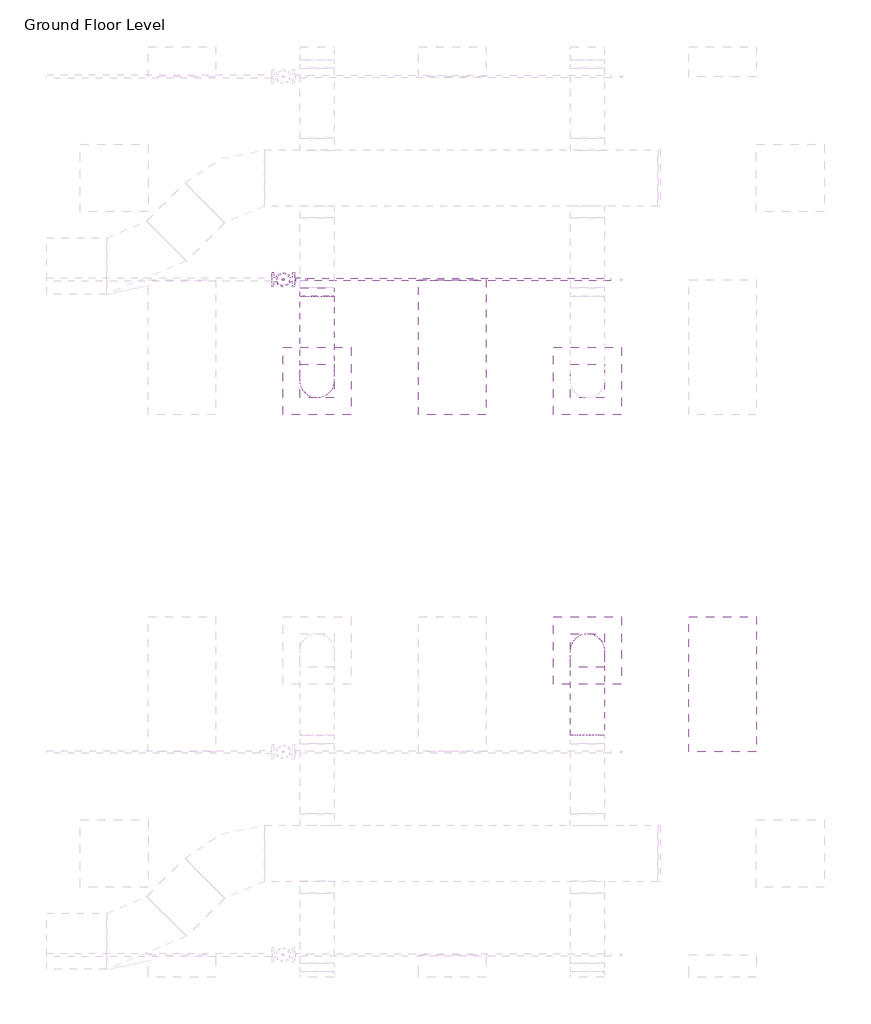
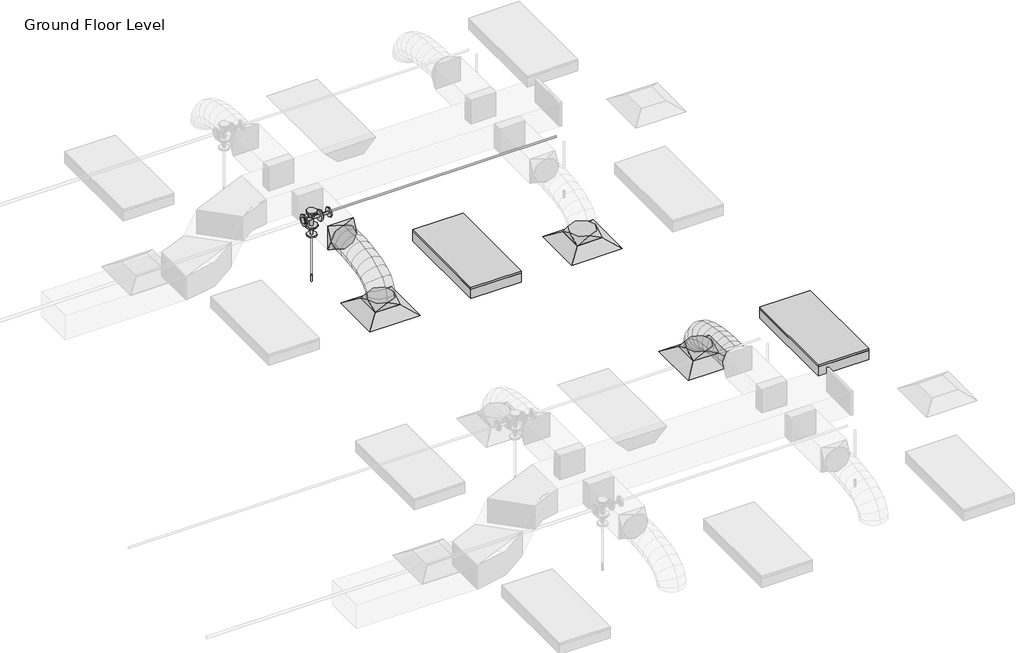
# One storey, part 38 of 74: 4 duct fittings, 3 air terminals, 3 pipe fittings, 2 duct segments, 2 light fixtures, 2 pipe segments, 1 fire suppression terminal.
"""IFC4 building model written with IfcOpenShell, lengths in millimetres."""

from ifc_helpers import new_model, si_unit, point, frame, frame_2d, origin, place, context, project, spatial, circle_curve, ellipse_curve, trimmed, segment, composite_curve, outline, extrude, transform, mapped, element, save
from ifc_brep_helpers import plane_surface, cylinder_surface, advanced_brep
from components import m_return_diffuser_600_x_600_face_300_x_300_connection_ff221211, m_rectangular_to_round_transition_angle_45_degree_641efff0, m_sprinkler_dry_pendent_hosted_15_mm_dry_pendent_9bda8e11, m_troffer_light_parabolic_rectangular1_0600x1200mm_4_lamp_86473d4a, m_reducer_flanged_cs_class_150_standard_ccf252ad, m_tee_round_base_flanged_cs_class_150_standard_7e5987a1

model = new_model("IFC4")

# Units and contexts
model_context = context("Model", 3, world=origin())
ifc_project = project(units=[si_unit("LENGTHUNIT", "METRE", prefix="MILLI")], contexts=[model_context])

# Site, building, storey
site = spatial("IfcSite", under=ifc_project)
building = spatial("IfcBuilding", under=site)
storey = spatial("IfcBuildingStorey", under=building, Name="Ground Floor Level", Elevation=900.0)

# Air terminals
placement = place(None, origin())
m_return_diffuser_600_x_600_face_300_x_300_connection_shape = m_return_diffuser_600_x_600_face_300_x_300_connection_ff221211(model_context)
element("IfcAirTerminal", 1, ObjectType="M_Supply Diffuser : 600 x 600 Face 300 x 300 Connection", at=placement, inside=storey, context=model_context, shape_type="MappedRepresentation", body=[
    mapped(m_return_diffuser_600_x_600_face_300_x_300_connection_shape, transform((10742.7672395, -1074.7846466, 3650.0), x_axis=(1.0, 0.0, 0.0), y_axis=(0.0, 1.0, 0.0), z_axis=(0.0, 0.0, 1.0))),
])
element("IfcAirTerminal", 2, ObjectType="M_Supply Diffuser : 600 x 600 Face 300 x 300 Connection", at=placement, inside=storey, context=model_context, shape_type="MappedRepresentation", body=[
    mapped(m_return_diffuser_600_x_600_face_300_x_300_connection_shape, transform((13142.7672395, -1074.7846466, 3650.0), x_axis=(1.0, 0.0, 0.0), y_axis=(0.0, 1.0, 0.0), z_axis=(0.0, 0.0, 1.0))),
])
element("IfcAirTerminal", 3, ObjectType="M_Supply Diffuser : 600 x 600 Face 300 x 300 Connection", at=placement, inside=storey, context=model_context, shape_type="MappedRepresentation", body=[
    mapped(m_return_diffuser_600_x_600_face_300_x_300_connection_shape, transform((13142.7672395, -3464.7846466, 3650.0), x_axis=(1.0, 0.0, 0.0), y_axis=(0.0, 1.0, 0.0), z_axis=(0.0, 0.0, 1.0))),
])

# Duct fittings
m_rectangular_to_round_transition_angle_45_degree_shape = m_rectangular_to_round_transition_angle_45_degree_641efff0(model_context)
element("IfcDuctFitting", 4, ObjectType="M_Rectangular to Round Transition - Angle : 45 Degree", at=placement, inside=storey, context=model_context, shape_type="MappedRepresentation", body=[
    mapped(m_rectangular_to_round_transition_angle_45_degree_shape, transform((13142.7672395, -3464.7846466, 3751.6), x_axis=(0.0, 0.0, 1.0), y_axis=(-1.0, 0.0, 0.0), z_axis=(0.0, -1.0, 0.0))),
])
element("IfcDuctFitting", 5, ObjectType="M_Rectangular to Round Transition - Angle : 45 Degree", at=placement, inside=storey, context=model_context, shape_type="MappedRepresentation", body=[
    mapped(m_rectangular_to_round_transition_angle_45_degree_shape, transform((10742.7672395, -1074.7846466, 3751.6), x_axis=(0.0, 0.0, 1.0), y_axis=(-1.0, 0.0, 0.0), z_axis=(0.0, -1.0, 0.0))),
])
element("IfcDuctFitting", 6, ObjectType="M_Rectangular to Round Transition - Angle : 45 Degree", at=placement, inside=storey, context=model_context, shape_type="MappedRepresentation", body=[
    mapped(m_rectangular_to_round_transition_angle_45_degree_shape, transform((10742.7672395, -247.4487153, 4100.0), x_axis=(0.0, -1.0, 0.0), y_axis=(1.0, 0.0, 0.0), z_axis=(0.0, 0.0, 1.0))),
])
element("IfcDuctFitting", 7, ObjectType="M_Rectangular to Round Transition - Angle : 45 Degree", at=placement, inside=storey, context=model_context, shape_type="MappedRepresentation", body=[
    mapped(m_rectangular_to_round_transition_angle_45_degree_shape, transform((13142.7672395, -1074.7846466, 3751.6), x_axis=(0.0, 0.0, 1.0), y_axis=(-1.0, 0.0, 0.0), z_axis=(0.0, -1.0, 0.0))),
])

# Duct segments
element("IfcDuctSegment", 8, ObjectType="Flex - Round", at=placement, inside=storey, context=model_context, shape_type="AdvancedBrep", body=[
    advanced_brep(
    [(13292.7672395, -3464.7846466, 3826.6), (13142.7672395, -3614.7846466, 3826.6), (12992.7672395, -3464.7846466, 3826.6), (13142.7672395, -3314.7846466, 3826.6), (13292.7672395, -3464.7846466, 3857.9377114), (13142.7672395, -3614.7846466, 3832.2944892), (12992.7672395, -3464.7846466, 3857.9377114), (13142.7672395, -3314.7846466, 3883.5809337), (13292.7672395, -3481.8005792, 3906.2505728), (13142.7672395, -3615.5385581, 3834.435049), (12992.7672395, -3481.8005792, 3906.2505728), (13142.7672395, -3348.0626002, 3978.0660967), (13292.7672395, -3528.9844595, 3968.7113131), (13142.7672395, -3633.1903588, 3857.8020236), (12992.7672395, -3528.9844595, 3968.7113131), (13142.7672395, -3424.7785603, 4079.6206026), (13292.7672395, -3600.5404117, 4016.0700639), (13142.7672395, -3669.4744673, 3881.8163788), (12992.7672395, -3600.5404117, 4016.0700639), (13142.7672395, -3531.606356, 4150.3237489), (13292.7672395, -3690.6725597, 4050.4146682), (13142.7672395, -3734.2333228, 3906.4925606), (12992.7672395, -3690.6725597, 4050.4146682), (13142.7672395, -3647.1117965, 4194.3367758), (13292.7672395, -3793.5850275, 4073.8329691), (13142.7672395, -3820.1459515, 3926.0424542), (12992.7672395, -3793.5850275, 4073.8329691), (13142.7672395, -3767.0241035, 4221.6234841), (13292.7672395, -3903.4819392, 4088.4128097), (13142.7672395, -3918.6328416, 3939.1085462), (12992.7672395, -3903.4819392, 4088.4128097), (13142.7672395, -3888.3310369, 4237.7170733), (13292.7672395, -4014.5674189, 4096.242033), (13142.7672395, -4022.0727471, 3946.398915), (12992.7672395, -4014.5674189, 4096.242033), (13142.7672395, -4007.0620907, 4246.085151), (13292.7672395, -4121.0455904, 4099.4084821), (13142.7672395, -4123.7370835, 3949.4222102), (12992.7672395, -4121.0455904, 4099.4084821), (13142.7672395, -4118.3540973, 4249.394754), (13292.7672395, -4217.1205779, 4100.0), (13142.7672395, -4216.1970701, 4249.9971571), (12992.7672395, -4217.1205779, 4100.0), (13142.7672395, -4218.0440857, 3950.0028429)],
    [
        (0, 1, circle_curve(frame((13142.7672395, -3464.7846466, 3826.6), z_axis=(0.0, 0.0, -1.0), x_axis=(1.0, 0.0, 0.0)), 150.0)),
        (1, 2, circle_curve(frame((13142.7672395, -3464.7846466, 3826.6), z_axis=(0.0, 0.0, -1.0), x_axis=(1.0, 0.0, 0.0)), 150.0)),
        (2, 3, circle_curve(frame((13142.7672395, -3464.7846466, 3826.6), z_axis=(0.0, 0.0, -1.0), x_axis=(1.0, 0.0, 0.0)), 150.0)),
        (3, 0, circle_curve(frame((13142.7672395, -3464.7846466, 3826.6), z_axis=(0.0, 0.0, -1.0), x_axis=(1.0, 0.0, 0.0)), 150.0)),
        (0, 4),
        (4, 5, ellipse_curve(frame((13142.7672395, -3464.7846466, 3857.9377114), z_axis=(0.0, 0.16851014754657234, -0.9856999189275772), x_axis=(0.0, -0.9856999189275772, -0.1685101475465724)), 152.176131, 150.0)),
        (5, 1),
        (5, 6, ellipse_curve(frame((13142.7672395, -3464.7846466, 3857.9377114), z_axis=(0.0, 0.16851014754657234, -0.9856999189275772), x_axis=(0.0, -0.9856999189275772, -0.1685101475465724)), 152.176131, 150.0)),
        (6, 2),
        (6, 7, ellipse_curve(frame((13142.7672395, -3464.7846466, 3857.9377114), z_axis=(0.0, 0.16851014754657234, -0.9856999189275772), x_axis=(0.0, -0.9856999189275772, -0.1685101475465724)), 152.176131, 150.0)),
        (7, 3),
        (7, 4, ellipse_curve(frame((13142.7672395, -3464.7846466, 3857.9377114), z_axis=(0.0, 0.16851014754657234, -0.9856999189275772), x_axis=(0.0, -0.9856999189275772, -0.1685101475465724)), 152.176131, 150.0)),
        (4, 8),
        (8, 9, ellipse_curve(frame((13142.7672395, -3481.8005792, 3906.2505728), z_axis=(0.0, 0.47309225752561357, -0.8810128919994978), x_axis=(0.0, -0.8810128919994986, -0.47309225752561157)), 151.8002519, 150.0)),
        (9, 5),
        (9, 10, ellipse_curve(frame((13142.7672395, -3481.8005792, 3906.2505728), z_axis=(0.0, 0.47309225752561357, -0.8810128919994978), x_axis=(0.0, -0.8810128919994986, -0.47309225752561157)), 151.8002519, 150.0)),
        (10, 6),
        (10, 11, ellipse_curve(frame((13142.7672395, -3481.8005792, 3906.2505728), z_axis=(0.0, 0.47309225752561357, -0.8810128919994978), x_axis=(0.0, -0.8810128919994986, -0.47309225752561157)), 151.8002519, 150.0)),
        (11, 7),
        (11, 8, ellipse_curve(frame((13142.7672395, -3481.8005792, 3906.2505728), z_axis=(0.0, 0.47309225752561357, -0.8810128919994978), x_axis=(0.0, -0.8810128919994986, -0.47309225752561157)), 151.8002519, 150.0)),
        (8, 12),
        (12, 13, ellipse_curve(frame((13142.7672395, -3528.9844595, 3968.7113131), z_axis=(0.0, 0.7287877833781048, -0.6847396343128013), x_axis=(0.0, -0.6847396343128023, -0.7287877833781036)), 152.1832446, 150.0)),
        (13, 9),
        (13, 14, ellipse_curve(frame((13142.7672395, -3528.9844595, 3968.7113131), z_axis=(0.0, 0.7287877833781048, -0.6847396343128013), x_axis=(0.0, -0.6847396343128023, -0.7287877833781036)), 152.1832446, 150.0)),
        (14, 10),
        (14, 15, ellipse_curve(frame((13142.7672395, -3528.9844595, 3968.7113131), z_axis=(0.0, 0.7287877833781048, -0.6847396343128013), x_axis=(0.0, -0.6847396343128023, -0.7287877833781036)), 152.1832446, 150.0)),
        (15, 11),
        (15, 12, ellipse_curve(frame((13142.7672395, -3528.9844595, 3968.7113131), z_axis=(0.0, 0.7287877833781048, -0.6847396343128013), x_axis=(0.0, -0.6847396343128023, -0.7287877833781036)), 152.1832446, 150.0)),
        (12, 16),
        (16, 17, ellipse_curve(frame((13142.7672395, -3600.5404117, 4016.0700639), z_axis=(0.0, 0.8895859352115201, -0.45676784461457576), x_axis=(0.0, -0.45676784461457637, -0.8895859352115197)), 150.91705, 150.0)),
        (17, 13),
        (17, 18, ellipse_curve(frame((13142.7672395, -3600.5404117, 4016.0700639), z_axis=(0.0, 0.8895859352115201, -0.45676784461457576), x_axis=(0.0, -0.45676784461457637, -0.8895859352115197)), 150.91705, 150.0)),
        (18, 14),
        (18, 19, ellipse_curve(frame((13142.7672395, -3600.5404117, 4016.0700639), z_axis=(0.0, 0.8895859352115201, -0.45676784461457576), x_axis=(0.0, -0.45676784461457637, -0.8895859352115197)), 150.91705, 150.0)),
        (19, 15),
        (19, 16, ellipse_curve(frame((13142.7672395, -3600.5404117, 4016.0700639), z_axis=(0.0, 0.8895859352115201, -0.45676784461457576), x_axis=(0.0, -0.45676784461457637, -0.8895859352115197)), 150.91705, 150.0)),
        (16, 20),
        (20, 21, ellipse_curve(frame((13142.7672395, -3690.6725597, 4050.4146682), z_axis=(0.0, 0.9571203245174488, -0.2896906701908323), x_axis=(0.0, -0.2896906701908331, -0.9571203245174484)), 150.369921, 150.0)),
        (21, 17),
        (21, 22, ellipse_curve(frame((13142.7672395, -3690.6725597, 4050.4146682), z_axis=(0.0, 0.9571203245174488, -0.2896906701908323), x_axis=(0.0, -0.2896906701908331, -0.9571203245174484)), 150.369921, 150.0)),
        (22, 18),
        (22, 23, ellipse_curve(frame((13142.7672395, -3690.6725597, 4050.4146682), z_axis=(0.0, 0.9571203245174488, -0.2896906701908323), x_axis=(0.0, -0.2896906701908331, -0.9571203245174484)), 150.369921, 150.0)),
        (23, 19),
        (23, 20, ellipse_curve(frame((13142.7672395, -3690.6725597, 4050.4146682), z_axis=(0.0, 0.9571203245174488, -0.2896906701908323), x_axis=(0.0, -0.2896906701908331, -0.9571203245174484)), 150.369921, 150.0)),
        (20, 24),
        (24, 25, ellipse_curve(frame((13142.7672395, -3793.5850275, 4073.8329691), z_axis=(0.0, 0.9842313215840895, -0.17688613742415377), x_axis=(0.0, -0.17688613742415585, -0.9842313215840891)), 150.1583131, 150.0)),
        (25, 21),
        (25, 26, ellipse_curve(frame((13142.7672395, -3793.5850275, 4073.8329691), z_axis=(0.0, 0.9842313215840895, -0.17688613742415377), x_axis=(0.0, -0.17688613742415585, -0.9842313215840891)), 150.1583131, 150.0)),
        (26, 22),
        (26, 27, ellipse_curve(frame((13142.7672395, -3793.5850275, 4073.8329691), z_axis=(0.0, 0.9842313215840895, -0.17688613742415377), x_axis=(0.0, -0.17688613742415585, -0.9842313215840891)), 150.1583131, 150.0)),
        (27, 23),
        (27, 24, ellipse_curve(frame((13142.7672395, -3793.5850275, 4073.8329691), z_axis=(0.0, 0.9842313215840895, -0.17688613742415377), x_axis=(0.0, -0.17688613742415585, -0.9842313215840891)), 150.1583131, 150.0)),
        (24, 28),
        (28, 29, ellipse_curve(frame((13142.7672395, -3903.4819392, 4088.4128097), z_axis=(0.0, 0.9948906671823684, -0.10095821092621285), x_axis=(0.0, -0.10095821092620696, -0.9948906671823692)), 150.0710264, 150.0)),
        (29, 25),
        (29, 30, ellipse_curve(frame((13142.7672395, -3903.4819392, 4088.4128097), z_axis=(0.0, 0.9948906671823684, -0.10095821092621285), x_axis=(0.0, -0.10095821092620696, -0.9948906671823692)), 150.0710264, 150.0)),
        (30, 26),
        (30, 31, ellipse_curve(frame((13142.7672395, -3903.4819392, 4088.4128097), z_axis=(0.0, 0.9948906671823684, -0.10095821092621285), x_axis=(0.0, -0.10095821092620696, -0.9948906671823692)), 150.0710264, 150.0)),
        (31, 27),
        (31, 28, ellipse_curve(frame((13142.7672395, -3903.4819392, 4088.4128097), z_axis=(0.0, 0.9948906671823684, -0.10095821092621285), x_axis=(0.0, -0.10095821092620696, -0.9948906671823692)), 150.0710264, 150.0)),
        (28, 32),
        (32, 33, ellipse_curve(frame((13142.7672395, -4014.5674189, 4096.242033), z_axis=(0.0, 0.9987479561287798, -0.05002519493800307), x_axis=(0.0, -0.050025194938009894, -0.9987479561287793)), 150.0309634, 150.0)),
        (33, 29),
        (33, 34, ellipse_curve(frame((13142.7672395, -4014.5674189, 4096.242033), z_axis=(0.0, 0.9987479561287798, -0.05002519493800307), x_axis=(0.0, -0.050025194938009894, -0.9987479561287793)), 150.0309634, 150.0)),
        (34, 30),
        (34, 35, ellipse_curve(frame((13142.7672395, -4014.5674189, 4096.242033), z_axis=(0.0, 0.9987479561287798, -0.05002519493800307), x_axis=(0.0, -0.050025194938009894, -0.9987479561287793)), 150.0309634, 150.0)),
        (35, 31),
        (35, 32, ellipse_curve(frame((13142.7672395, -4014.5674189, 4096.242033), z_axis=(0.0, 0.9987479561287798, -0.05002519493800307), x_axis=(0.0, -0.050025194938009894, -0.9987479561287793)), 150.0309634, 150.0)),
        (32, 36),
        (36, 37, ellipse_curve(frame((13142.7672395, -4121.0455904, 4099.4084821), z_axis=(0.0, 0.9998390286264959, -0.017942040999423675), x_axis=(-1.8187895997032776e-12, -0.017942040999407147, -0.9998390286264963)), 150.0104193, 150.0)),
        (37, 33),
        (37, 38, ellipse_curve(frame((13142.7672395, -4121.0455904, 4099.4084821), z_axis=(0.0, 0.9998390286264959, -0.017942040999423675), x_axis=(-1.8187895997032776e-12, -0.017942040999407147, -0.9998390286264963)), 150.0104193, 150.0)),
        (38, 34),
        (38, 39, ellipse_curve(frame((13142.7672395, -4121.0455904, 4099.4084821), z_axis=(0.0, 0.9998390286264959, -0.017942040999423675), x_axis=(-1.8187895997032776e-12, -0.017942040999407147, -0.9998390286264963)), 150.0104193, 150.0)),
        (39, 35),
        (39, 36, ellipse_curve(frame((13142.7672395, -4121.0455904, 4099.4084821), z_axis=(0.0, 0.9998390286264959, -0.017942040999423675), x_axis=(-1.8187895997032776e-12, -0.017942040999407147, -0.9998390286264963)), 150.0104193, 150.0)),
        (40, 41, circle_curve(frame((13142.7672395, -4217.1205779, 4100.0), z_axis=(0.0, -0.9999810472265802, 0.006156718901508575), x_axis=(1.0, 0.0, 0.0)), 150.0)),
        (41, 42, circle_curve(frame((13142.7672395, -4217.1205779, 4100.0), z_axis=(0.0, -0.9999810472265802, 0.006156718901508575), x_axis=(1.0, 0.0, 0.0)), 150.0)),
        (42, 43, circle_curve(frame((13142.7672395, -4217.1205779, 4100.0), z_axis=(0.0, -0.9999810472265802, 0.006156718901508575), x_axis=(1.0, 0.0, 0.0)), 150.0)),
        (43, 40, circle_curve(frame((13142.7672395, -4217.1205779, 4100.0), z_axis=(0.0, -0.9999810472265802, 0.006156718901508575), x_axis=(1.0, 0.0, 0.0)), 150.0)),
        (36, 40),
        (43, 37),
        (42, 38),
        (41, 39),
    ],
    [
        plane_surface(frame((13142.7672395, -3614.7846466, 3826.6), z_axis=(0.0, 0.0, -1.0), x_axis=(1.0, 0.0, 0.0))),
        cylinder_surface(frame((13142.7672395, -3464.7846466, 3826.6), z_axis=(0.0, 0.0, -1.0), x_axis=(1.0, 0.0, 0.0)), 150.0),
        cylinder_surface(frame((13142.7672395, -3464.7846466, 3857.9377114), z_axis=(0.0, 0.3322008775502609, -0.9432086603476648), x_axis=(1.0, 0.0, 0.0)), 150.0),
        cylinder_surface(frame((13142.7672395, -3481.8005792, 3906.2505728), z_axis=(0.0, 0.6027625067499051, -0.7979206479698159), x_axis=(1.0, 0.0, 0.0)), 150.0),
        cylinder_surface(frame((13142.7672395, -3528.9844595, 3968.7113131), z_axis=(0.0, 0.833902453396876, -0.5519118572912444), x_axis=(1.0, 0.0, 0.0)), 150.0),
        cylinder_surface(frame((13142.7672395, -3600.5404117, 4016.0700639), z_axis=(0.0, 0.9344582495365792, -0.35607271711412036), x_axis=(1.0, 0.0, 0.0)), 150.0),
        cylinder_surface(frame((13142.7672395, -3690.6725597, 4050.4146682), z_axis=(0.0, 0.9750732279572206, -0.22188330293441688), x_axis=(1.0, 0.0, 0.0)), 150.0),
        cylinder_surface(frame((13142.7672395, -3793.5850275, 4073.8329691), z_axis=(0.0, 0.9913140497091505, -0.1315159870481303), x_axis=(1.0, 0.0, 0.0)), 150.0),
        cylinder_surface(frame((13142.7672395, -3903.4819392, 4088.4128097), z_axis=(0.0, 0.9975255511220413, -0.070304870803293), x_axis=(1.0, 0.0, 0.0)), 150.0),
        cylinder_surface(frame((13142.7672395, -4014.5674189, 4096.242033), z_axis=(0.0, 0.9995581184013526, -0.02972487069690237), x_axis=(1.0, 0.0, 0.0)), 150.0),
        plane_surface(frame((13142.7672395, -4218.0440857, 3950.0028429), z_axis=(0.0, -0.9999810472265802, 0.006156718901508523), x_axis=(1.0, 0.0, 0.0))),
        cylinder_surface(frame((13142.7672395, -4121.0455904, 4099.4084821), z_axis=(0.0, 0.9999810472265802, -0.006156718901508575), x_axis=(1.0, 0.0, 0.0)), 150.0),
    ],
    [
        (0, [[1, 2, 3, 4]]),
        (1, [[-1, 5, 6, 7]]),
        (1, [[-2, -7, 8, 9]]),
        (1, [[-3, -9, 10, 11]]),
        (1, [[-4, -11, 12, -5]]),
        (2, [[-6, 13, 14, 15]]),
        (2, [[-8, -15, 16, 17]]),
        (2, [[-10, -17, 18, 19]]),
        (2, [[-12, -19, 20, -13]]),
        (3, [[-14, 21, 22, 23]]),
        (3, [[-16, -23, 24, 25]]),
        (3, [[-18, -25, 26, 27]]),
        (3, [[-20, -27, 28, -21]]),
        (4, [[-22, 29, 30, 31]]),
        (4, [[-24, -31, 32, 33]]),
        (4, [[-26, -33, 34, 35]]),
        (4, [[-28, -35, 36, -29]]),
        (5, [[-30, 37, 38, 39]]),
        (5, [[-32, -39, 40, 41]]),
        (5, [[-34, -41, 42, 43]]),
        (5, [[-36, -43, 44, -37]]),
        (6, [[-38, 45, 46, 47]]),
        (6, [[-40, -47, 48, 49]]),
        (6, [[-42, -49, 50, 51]]),
        (6, [[-44, -51, 52, -45]]),
        (7, [[-46, 53, 54, 55]]),
        (7, [[-48, -55, 56, 57]]),
        (7, [[-50, -57, 58, 59]]),
        (7, [[-52, -59, 60, -53]]),
        (8, [[-54, 61, 62, 63]]),
        (8, [[-56, -63, 64, 65]]),
        (8, [[-58, -65, 66, 67]]),
        (8, [[-60, -67, 68, -61]]),
        (9, [[-62, 69, 70, 71]]),
        (9, [[-64, -71, 72, 73]]),
        (9, [[-66, -73, 74, 75]]),
        (9, [[-68, -75, 76, -69]]),
        (10, [[77, 78, 79, 80]]),
        (11, [[-70, 81, -80, 82]]),
        (11, [[-72, -82, -79, 83]]),
        (11, [[-74, -83, -78, 84]]),
        (11, [[-76, -84, -77, -81]]),
    ],
),
])
element("IfcDuctSegment", 9, ObjectType="Flex - Round", at=placement, inside=storey, context=model_context, shape_type="AdvancedBrep", body=[
    advanced_brep(
    [(10892.7672395, -1074.7846466, 3826.6), (10742.7672395, -1224.7846466, 3826.6), (10592.7672395, -1074.7846466, 3826.6), (10742.7672395, -924.7846466, 3826.6), (10892.7672395, -1074.7846466, 3857.9377114), (10742.7672395, -1224.7846466, 3883.5809337), (10592.7672395, -1074.7846466, 3857.9377114), (10742.7672395, -924.7846466, 3832.2944892), (10892.7672395, -1057.7687141, 3906.2505728), (10742.7672395, -1191.506693, 3978.0660967), (10592.7672395, -1057.7687141, 3906.2505728), (10742.7672395, -924.0307351, 3834.435049), (10892.7672395, -1010.5848337, 3968.7113131), (10742.7672395, -1114.790733, 4079.6206026), (10592.7672395, -1010.5848337, 3968.7113131), (10742.7672395, -906.3789345, 3857.8020236), (10892.7672395, -939.0288816, 4016.0700639), (10742.7672395, -1007.9629372, 4150.3237489), (10592.7672395, -939.0288816, 4016.0700639), (10742.7672395, -870.0948259, 3881.8163788), (10892.7672395, -848.8967336, 4050.4146682), (10742.7672395, -892.4574967, 4194.3367758), (10592.7672395, -848.8967336, 4050.4146682), (10742.7672395, -805.3359704, 3906.4925606), (10892.7672395, -745.9842657, 4073.8329691), (10742.7672395, -772.5451897, 4221.6234841), (10592.7672395, -745.9842657, 4073.8329691), (10742.7672395, -719.4233417, 3926.0424542), (10892.7672395, -636.087354, 4088.4128097), (10742.7672395, -651.2382563, 4237.7170733), (10592.7672395, -636.087354, 4088.4128097), (10742.7672395, -620.9364516, 3939.1085462), (10892.7672395, -525.0018744, 4096.242033), (10742.7672395, -532.5072025, 4246.085151), (10592.7672395, -525.0018744, 4096.242033), (10742.7672395, -517.4965462, 3946.398915), (10892.7672395, -418.5237028, 4099.4084821), (10742.7672395, -421.2151959, 4249.394754), (10592.7672395, -418.5237028, 4099.4084821), (10742.7672395, -415.8322097, 3949.4222102), (10892.7672395, -322.4487153, 4100.0), (10742.7672395, -321.5252075, 3950.0028429), (10592.7672395, -322.4487153, 4100.0), (10742.7672395, -323.3722232, 4249.9971571)],
    [
        (0, 1, circle_curve(frame((10742.7672395, -1074.7846466, 3826.6), z_axis=(0.0, 0.0, -1.0), x_axis=(1.0, 0.0, 0.0)), 150.0)),
        (1, 2, circle_curve(frame((10742.7672395, -1074.7846466, 3826.6), z_axis=(0.0, 0.0, -1.0), x_axis=(1.0, 0.0, 0.0)), 150.0)),
        (2, 3, circle_curve(frame((10742.7672395, -1074.7846466, 3826.6), z_axis=(0.0, 0.0, -1.0), x_axis=(1.0, 0.0, 0.0)), 150.0)),
        (3, 0, circle_curve(frame((10742.7672395, -1074.7846466, 3826.6), z_axis=(0.0, 0.0, -1.0), x_axis=(1.0, 0.0, 0.0)), 150.0)),
        (0, 4),
        (4, 5, ellipse_curve(frame((10742.7672395, -1074.7846466, 3857.9377114), z_axis=(0.0, -0.16851014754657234, -0.9856999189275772), x_axis=(0.0, 0.9856999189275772, -0.1685101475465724)), 152.176131, 150.0)),
        (5, 1),
        (5, 6, ellipse_curve(frame((10742.7672395, -1074.7846466, 3857.9377114), z_axis=(0.0, -0.16851014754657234, -0.9856999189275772), x_axis=(0.0, 0.9856999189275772, -0.1685101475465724)), 152.176131, 150.0)),
        (6, 2),
        (6, 7, ellipse_curve(frame((10742.7672395, -1074.7846466, 3857.9377114), z_axis=(0.0, -0.16851014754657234, -0.9856999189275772), x_axis=(0.0, 0.9856999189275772, -0.1685101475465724)), 152.176131, 150.0)),
        (7, 3),
        (7, 4, ellipse_curve(frame((10742.7672395, -1074.7846466, 3857.9377114), z_axis=(0.0, -0.16851014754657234, -0.9856999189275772), x_axis=(0.0, 0.9856999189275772, -0.1685101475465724)), 152.176131, 150.0)),
        (4, 8),
        (8, 9, ellipse_curve(frame((10742.7672395, -1057.7687141, 3906.2505728), z_axis=(0.0, -0.4730922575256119, -0.8810128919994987), x_axis=(0.0, 0.8810128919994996, -0.47309225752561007)), 151.8002519, 150.0)),
        (9, 5),
        (9, 10, ellipse_curve(frame((10742.7672395, -1057.7687141, 3906.2505728), z_axis=(0.0, -0.4730922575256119, -0.8810128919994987), x_axis=(0.0, 0.8810128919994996, -0.47309225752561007)), 151.8002519, 150.0)),
        (10, 6),
        (10, 11, ellipse_curve(frame((10742.7672395, -1057.7687141, 3906.2505728), z_axis=(0.0, -0.4730922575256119, -0.8810128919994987), x_axis=(0.0, 0.8810128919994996, -0.47309225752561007)), 151.8002519, 150.0)),
        (11, 7),
        (11, 8, ellipse_curve(frame((10742.7672395, -1057.7687141, 3906.2505728), z_axis=(0.0, -0.4730922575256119, -0.8810128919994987), x_axis=(0.0, 0.8810128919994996, -0.47309225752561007)), 151.8002519, 150.0)),
        (8, 12),
        (12, 13, ellipse_curve(frame((10742.7672395, -1010.5848337, 3968.7113131), z_axis=(0.0, -0.7287877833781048, -0.6847396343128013), x_axis=(0.0, 0.6847396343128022, -0.7287877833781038)), 152.1832446, 150.0)),
        (13, 9),
        (13, 14, ellipse_curve(frame((10742.7672395, -1010.5848337, 3968.7113131), z_axis=(0.0, -0.7287877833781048, -0.6847396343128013), x_axis=(0.0, 0.6847396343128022, -0.7287877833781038)), 152.1832446, 150.0)),
        (14, 10),
        (14, 15, ellipse_curve(frame((10742.7672395, -1010.5848337, 3968.7113131), z_axis=(0.0, -0.7287877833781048, -0.6847396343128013), x_axis=(0.0, 0.6847396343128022, -0.7287877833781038)), 152.1832446, 150.0)),
        (15, 11),
        (15, 12, ellipse_curve(frame((10742.7672395, -1010.5848337, 3968.7113131), z_axis=(0.0, -0.7287877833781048, -0.6847396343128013), x_axis=(0.0, 0.6847396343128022, -0.7287877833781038)), 152.1832446, 150.0)),
        (12, 16),
        (16, 17, ellipse_curve(frame((10742.7672395, -939.0288816, 4016.0700639), z_axis=(0.0, -0.8895859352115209, -0.45676784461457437), x_axis=(0.0, 0.4567678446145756, -0.8895859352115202)), 150.91705, 150.0)),
        (17, 13),
        (17, 18, ellipse_curve(frame((10742.7672395, -939.0288816, 4016.0700639), z_axis=(0.0, -0.8895859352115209, -0.45676784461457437), x_axis=(0.0, 0.4567678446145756, -0.8895859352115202)), 150.91705, 150.0)),
        (18, 14),
        (18, 19, ellipse_curve(frame((10742.7672395, -939.0288816, 4016.0700639), z_axis=(0.0, -0.8895859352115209, -0.45676784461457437), x_axis=(0.0, 0.4567678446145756, -0.8895859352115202)), 150.91705, 150.0)),
        (19, 15),
        (19, 16, ellipse_curve(frame((10742.7672395, -939.0288816, 4016.0700639), z_axis=(0.0, -0.8895859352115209, -0.45676784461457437), x_axis=(0.0, 0.4567678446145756, -0.8895859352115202)), 150.91705, 150.0)),
        (16, 20),
        (20, 21, ellipse_curve(frame((10742.7672395, -848.8967336, 4050.4146682), z_axis=(0.0, -0.9571203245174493, -0.28969067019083), x_axis=(0.0, 0.2896906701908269, -0.9571203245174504)), 150.369921, 150.0)),
        (21, 17),
        (21, 22, ellipse_curve(frame((10742.7672395, -848.8967336, 4050.4146682), z_axis=(0.0, -0.9571203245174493, -0.28969067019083), x_axis=(0.0, 0.2896906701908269, -0.9571203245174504)), 150.369921, 150.0)),
        (22, 18),
        (22, 23, ellipse_curve(frame((10742.7672395, -848.8967336, 4050.4146682), z_axis=(0.0, -0.9571203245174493, -0.28969067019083), x_axis=(0.0, 0.2896906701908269, -0.9571203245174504)), 150.369921, 150.0)),
        (23, 19),
        (23, 20, ellipse_curve(frame((10742.7672395, -848.8967336, 4050.4146682), z_axis=(0.0, -0.9571203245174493, -0.28969067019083), x_axis=(0.0, 0.2896906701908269, -0.9571203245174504)), 150.369921, 150.0)),
        (20, 24),
        (24, 25, ellipse_curve(frame((10742.7672395, -745.9842657, 4073.8329691), z_axis=(0.0, -0.9842313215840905, -0.17688613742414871), x_axis=(0.0, 0.17688613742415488, -0.9842313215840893)), 150.1583131, 150.0)),
        (25, 21),
        (25, 26, ellipse_curve(frame((10742.7672395, -745.9842657, 4073.8329691), z_axis=(0.0, -0.9842313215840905, -0.17688613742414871), x_axis=(0.0, 0.17688613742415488, -0.9842313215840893)), 150.1583131, 150.0)),
        (26, 22),
        (26, 27, ellipse_curve(frame((10742.7672395, -745.9842657, 4073.8329691), z_axis=(0.0, -0.9842313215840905, -0.17688613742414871), x_axis=(0.0, 0.17688613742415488, -0.9842313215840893)), 150.1583131, 150.0)),
        (27, 23),
        (27, 24, ellipse_curve(frame((10742.7672395, -745.9842657, 4073.8329691), z_axis=(0.0, -0.9842313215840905, -0.17688613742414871), x_axis=(0.0, 0.17688613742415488, -0.9842313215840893)), 150.1583131, 150.0)),
        (24, 28),
        (28, 29, ellipse_curve(frame((10742.7672395, -636.087354, 4088.4128097), z_axis=(0.0, -0.9948906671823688, -0.10095821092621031), x_axis=(0.0, 0.10095821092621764, -0.994890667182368)), 150.0710264, 150.0)),
        (29, 25),
        (29, 30, ellipse_curve(frame((10742.7672395, -636.087354, 4088.4128097), z_axis=(0.0, -0.9948906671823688, -0.10095821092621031), x_axis=(0.0, 0.10095821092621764, -0.994890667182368)), 150.0710264, 150.0)),
        (30, 26),
        (30, 31, ellipse_curve(frame((10742.7672395, -636.087354, 4088.4128097), z_axis=(0.0, -0.9948906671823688, -0.10095821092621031), x_axis=(0.0, 0.10095821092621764, -0.994890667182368)), 150.0710264, 150.0)),
        (31, 27),
        (31, 28, ellipse_curve(frame((10742.7672395, -636.087354, 4088.4128097), z_axis=(0.0, -0.9948906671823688, -0.10095821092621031), x_axis=(0.0, 0.10095821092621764, -0.994890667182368)), 150.0710264, 150.0)),
        (28, 32),
        (32, 33, ellipse_curve(frame((10742.7672395, -525.0018744, 4096.242033), z_axis=(0.0, -0.9987479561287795, -0.050025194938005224), x_axis=(0.0, 0.050025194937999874, -0.9987479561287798)), 150.0309634, 150.0)),
        (33, 29),
        (33, 34, ellipse_curve(frame((10742.7672395, -525.0018744, 4096.242033), z_axis=(0.0, -0.9987479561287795, -0.050025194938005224), x_axis=(0.0, 0.050025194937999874, -0.9987479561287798)), 150.0309634, 150.0)),
        (34, 30),
        (34, 35, ellipse_curve(frame((10742.7672395, -525.0018744, 4096.242033), z_axis=(0.0, -0.9987479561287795, -0.050025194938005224), x_axis=(0.0, 0.050025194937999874, -0.9987479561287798)), 150.0309634, 150.0)),
        (35, 31),
        (35, 32, ellipse_curve(frame((10742.7672395, -525.0018744, 4096.242033), z_axis=(0.0, -0.9987479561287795, -0.050025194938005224), x_axis=(0.0, 0.050025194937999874, -0.9987479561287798)), 150.0309634, 150.0)),
        (32, 36),
        (36, 37, ellipse_curve(frame((10742.7672395, -418.5237028, 4099.4084821), z_axis=(0.0, -0.9998390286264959, -0.017942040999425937), x_axis=(0.0, 0.017942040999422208, -0.999839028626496)), 150.0104193, 150.0)),
        (37, 33),
        (37, 38, ellipse_curve(frame((10742.7672395, -418.5237028, 4099.4084821), z_axis=(0.0, -0.9998390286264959, -0.017942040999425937), x_axis=(0.0, 0.017942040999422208, -0.999839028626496)), 150.0104193, 150.0)),
        (38, 34),
        (38, 39, ellipse_curve(frame((10742.7672395, -418.5237028, 4099.4084821), z_axis=(0.0, -0.9998390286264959, -0.017942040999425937), x_axis=(0.0, 0.017942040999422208, -0.999839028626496)), 150.0104193, 150.0)),
        (39, 35),
        (39, 36, ellipse_curve(frame((10742.7672395, -418.5237028, 4099.4084821), z_axis=(0.0, -0.9998390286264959, -0.017942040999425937), x_axis=(0.0, 0.017942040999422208, -0.999839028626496)), 150.0104193, 150.0)),
        (40, 41, circle_curve(frame((10742.7672395, -322.4487153, 4100.0), z_axis=(0.0, 0.9999810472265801, 0.006156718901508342), x_axis=(1.0, 0.0, 0.0)), 150.0)),
        (41, 42, circle_curve(frame((10742.7672395, -322.4487153, 4100.0), z_axis=(0.0, 0.9999810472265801, 0.006156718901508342), x_axis=(1.0, 0.0, 0.0)), 150.0)),
        (42, 43, circle_curve(frame((10742.7672395, -322.4487153, 4100.0), z_axis=(0.0, 0.9999810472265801, 0.006156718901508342), x_axis=(1.0, 0.0, 0.0)), 150.0)),
        (43, 40, circle_curve(frame((10742.7672395, -322.4487153, 4100.0), z_axis=(0.0, 0.9999810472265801, 0.006156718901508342), x_axis=(1.0, 0.0, 0.0)), 150.0)),
        (36, 40),
        (43, 37),
        (42, 38),
        (41, 39),
    ],
    [
        plane_surface(frame((10742.7672395, -1224.7846466, 3826.6), z_axis=(0.0, 0.0, -1.0), x_axis=(1.0, 0.0, 0.0))),
        cylinder_surface(frame((10742.7672395, -1074.7846466, 3826.6), z_axis=(0.0, 0.0, -1.0), x_axis=(1.0, 0.0, 0.0)), 150.0),
        cylinder_surface(frame((10742.7672395, -1074.7846466, 3857.9377114), z_axis=(0.0, -0.3322008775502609, -0.9432086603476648), x_axis=(1.0, 0.0, 0.0)), 150.0),
        cylinder_surface(frame((10742.7672395, -1057.7687141, 3906.2505728), z_axis=(0.0, -0.6027625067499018, -0.7979206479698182), x_axis=(1.0, 0.0, 0.0)), 150.0),
        cylinder_surface(frame((10742.7672395, -1010.5848337, 3968.7113131), z_axis=(0.0, -0.8339024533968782, -0.5519118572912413), x_axis=(1.0, 0.0, 0.0)), 150.0),
        cylinder_surface(frame((10742.7672395, -939.0288816, 4016.0700639), z_axis=(0.0, -0.934458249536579, -0.35607271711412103), x_axis=(1.0, 0.0, 0.0)), 150.0),
        cylinder_surface(frame((10742.7672395, -848.8967336, 4050.4146682), z_axis=(0.0, -0.9750732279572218, -0.22188330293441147), x_axis=(1.0, 0.0, 0.0)), 150.0),
        cylinder_surface(frame((10742.7672395, -745.9842657, 4073.8329691), z_axis=(0.0, -0.9913140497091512, -0.13151598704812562), x_axis=(1.0, 0.0, 0.0)), 150.0),
        cylinder_surface(frame((10742.7672395, -636.087354, 4088.4128097), z_axis=(0.0, -0.9975255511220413, -0.07030487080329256), x_axis=(1.0, 0.0, 0.0)), 150.0),
        cylinder_surface(frame((10742.7672395, -525.0018744, 4096.242033), z_axis=(0.0, -0.9995581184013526, -0.029724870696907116), x_axis=(1.0, 0.0, 0.0)), 150.0),
        plane_surface(frame((10742.7672395, -323.3722232, 4249.9971571), z_axis=(0.0, 0.9999810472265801, 0.006156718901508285), x_axis=(1.0, 0.0, 0.0))),
        cylinder_surface(frame((10742.7672395, -418.5237028, 4099.4084821), z_axis=(0.0, -0.9999810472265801, -0.006156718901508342), x_axis=(1.0, 0.0, 0.0)), 150.0),
    ],
    [
        (0, [[1, 2, 3, 4]]),
        (1, [[-1, 5, 6, 7]]),
        (1, [[-2, -7, 8, 9]]),
        (1, [[-3, -9, 10, 11]]),
        (1, [[-4, -11, 12, -5]]),
        (2, [[-6, 13, 14, 15]]),
        (2, [[-8, -15, 16, 17]]),
        (2, [[-10, -17, 18, 19]]),
        (2, [[-12, -19, 20, -13]]),
        (3, [[-14, 21, 22, 23]]),
        (3, [[-16, -23, 24, 25]]),
        (3, [[-18, -25, 26, 27]]),
        (3, [[-20, -27, 28, -21]]),
        (4, [[-22, 29, 30, 31]]),
        (4, [[-24, -31, 32, 33]]),
        (4, [[-26, -33, 34, 35]]),
        (4, [[-28, -35, 36, -29]]),
        (5, [[-30, 37, 38, 39]]),
        (5, [[-32, -39, 40, 41]]),
        (5, [[-34, -41, 42, 43]]),
        (5, [[-36, -43, 44, -37]]),
        (6, [[-38, 45, 46, 47]]),
        (6, [[-40, -47, 48, 49]]),
        (6, [[-42, -49, 50, 51]]),
        (6, [[-44, -51, 52, -45]]),
        (7, [[-46, 53, 54, 55]]),
        (7, [[-48, -55, 56, 57]]),
        (7, [[-50, -57, 58, 59]]),
        (7, [[-52, -59, 60, -53]]),
        (8, [[-54, 61, 62, 63]]),
        (8, [[-56, -63, 64, 65]]),
        (8, [[-58, -65, 66, 67]]),
        (8, [[-60, -67, 68, -61]]),
        (9, [[-62, 69, 70, 71]]),
        (9, [[-64, -71, 72, 73]]),
        (9, [[-66, -73, 74, 75]]),
        (9, [[-68, -75, 76, -69]]),
        (10, [[77, 78, 79, 80]]),
        (11, [[-70, 81, -80, 82]]),
        (11, [[-72, -82, -79, 83]]),
        (11, [[-74, -83, -78, 84]]),
        (11, [[-76, -84, -77, -81]]),
    ],
),
])

# Fire suppression terminal
m_sprinkler_dry_pendent_hosted_15_mm_dry_pendent_shape = m_sprinkler_dry_pendent_hosted_15_mm_dry_pendent_9bda8e11(model_context)
element("IfcFireSuppressionTerminal", 10, ObjectType="M_Sprinkler - Dry - Pendent - Hosted : 15 mm Dry Pendent", at=placement, inside=storey, context=model_context, shape_type="MappedRepresentation", body=[
    mapped(m_sprinkler_dry_pendent_hosted_15_mm_dry_pendent_shape, transform((10442.7672395, -174.7846466, 3650.0), x_axis=(1.0, 0.0, 0.0), y_axis=(0.0, -1.0, 0.0), z_axis=(0.0, 0.0, -1.0))),
])

# Light fixtures
m_troffer_light_parabolic_rectangular1_0600x1200mm_4_lamp_shape = m_troffer_light_parabolic_rectangular1_0600x1200mm_4_lamp_86473d4a(model_context)
element("IfcLightFixture", 11, ObjectType="M_Troffer Light - Parabolic Rectangular1 : 0600x1200mm(4 Lamp) - 277V 2", at=placement, inside=storey, context=model_context, shape_type="MappedRepresentation", body=[
    mapped(m_troffer_light_parabolic_rectangular1_0600x1200mm_4_lamp_shape, transform((11883.3013074, -756.081145, 3650.0), x_axis=(0.0, 1.0, 0.0), y_axis=(-1.0, 0.0, 0.0), z_axis=(0.0, 0.0, 1.0))),
])
element("IfcLightFixture", 12, ObjectType="M_Troffer Light - Parabolic Rectangular1 : 0600x1200mm(4 Lamp) - 277V 2", at=placement, inside=storey, context=model_context, shape_type="MappedRepresentation", body=[
    mapped(m_troffer_light_parabolic_rectangular1_0600x1200mm_4_lamp_shape, transform((14283.3013074, -3746.081145, 3650.0), x_axis=(0.0, 1.0, 0.0), y_axis=(-1.0, 0.0, 0.0), z_axis=(0.0, 0.0, 1.0))),
])

# Pipe fittings
m_reducer_flanged_cs_class_150_standard_shape = m_reducer_flanged_cs_class_150_standard_ccf252ad(model_context)
element("IfcPipeFitting", 13, ObjectType="M_Reducer - Flanged - CS - Class 150 : Standard", at=placement, inside=storey, context=model_context, shape_type="MappedRepresentation", body=[
    mapped(m_reducer_flanged_cs_class_150_standard_shape, transform((10543.4758332, -174.7846466, 4360.0), x_axis=(1.0, 0.0, 0.0), y_axis=(0.0, 0.0, 1.0), z_axis=(0.0, -1.0, 0.0))),
])
element("IfcPipeFitting", 14, ObjectType="M_Reducer - Flanged - CS - Class 150 : Standard", at=placement, inside=storey, context=model_context, shape_type="MappedRepresentation", body=[
    mapped(m_reducer_flanged_cs_class_150_standard_shape, transform((10442.7672395, -174.7846466, 4259.2914062), x_axis=(0.0, 0.0, -1.0), y_axis=(-1.0, 0.0, 0.0), z_axis=(0.0, 1.0, 0.0))),
])
m_tee_round_base_flanged_cs_class_150_standard_shape = m_tee_round_base_flanged_cs_class_150_standard_7e5987a1(model_context)
element("IfcPipeFitting", 15, ObjectType="M_Tee Round Base - Flanged - CS - Class 150 : Standard", at=placement, inside=storey, context=model_context, shape_type="MappedRepresentation", body=[
    mapped(m_tee_round_base_flanged_cs_class_150_standard_shape, transform((10442.7672395, -174.7846466, 4360.0), x_axis=(1.0, 0.0, 0.0), y_axis=(0.0, 0.0, 1.0), z_axis=(0.0, -1.0, 0.0))),
])

# Pipe segments
element("IfcPipeSegment", 16, ObjectType="Steel flanged", at=placement, inside=storey, context=model_context, shape_type="SweptSolid", body=[
    extrude(outline(composite_curve([segment(trimmed(circle_curve(frame_2d((10442.7672395, -174.7846466)), 10.668), [point((10432.0992395, -174.7846466))], [point((10442.7672395, -164.1166466))], False, "CARTESIAN"), True, "CONTINUOUS"), segment(trimmed(circle_curve(frame_2d((10442.7672395, -174.7846466)), 10.668), [point((10442.7672395, -164.1166466))], [point((10453.4352395, -174.7846466))], False, "CARTESIAN"), True, "CONTINUOUS"), segment(trimmed(circle_curve(frame_2d((10442.7672395, -174.7846466)), 10.668), [point((10453.4352395, -174.7846466))], [point((10442.7672395, -185.4526466))], False, "CARTESIAN"), True, "CONTINUOUS"), segment(trimmed(circle_curve(frame_2d((10442.7672395, -174.7846466)), 10.668), [point((10442.7672395, -185.4526466))], [point((10432.0992395, -174.7846466))], False, "CARTESIAN"), True, "CONTINUOUS")], self_intersect=False)), frame((0.0, 0.0, 3650.0), z_axis=(0.0, 0.0, 1.0), x_axis=(1.0, 0.0, 0.0)), (0.0, 0.0, 1.0), 495.2914062),
])
element("IfcPipeSegment", 17, ObjectType="Steel flanged", at=placement, inside=storey, context=model_context, shape_type="SweptSolid", body=[
    extrude(outline(composite_curve([segment(trimmed(circle_curve(frame_2d((-174.7846466, 4360.0)), 10.668), [point((-164.1166466, 4360.0))], [point((-174.7846466, 4349.332))], False, "CARTESIAN"), True, "CONTINUOUS"), segment(trimmed(circle_curve(frame_2d((-174.7846466, 4360.0)), 10.668), [point((-174.7846466, 4349.332))], [point((-185.4526466, 4360.0))], False, "CARTESIAN"), True, "CONTINUOUS"), segment(trimmed(circle_curve(frame_2d((-174.7846466, 4360.0)), 10.668), [point((-185.4526466, 4360.0))], [point((-174.7846466, 4370.668))], False, "CARTESIAN"), True, "CONTINUOUS"), segment(trimmed(circle_curve(frame_2d((-174.7846466, 4360.0)), 10.668), [point((-174.7846466, 4370.668))], [point((-164.1166466, 4360.0))], False, "CARTESIAN"), True, "CONTINUOUS")], self_intersect=False)), frame((10657.4758332, 0.0, 0.0), z_axis=(1.0, 0.0, 0.0), x_axis=(0.0, 1.0, 0.0)), (0.0, 0.0, 1.0), 2692.2828125),
])

save(model, "model.ifc")
